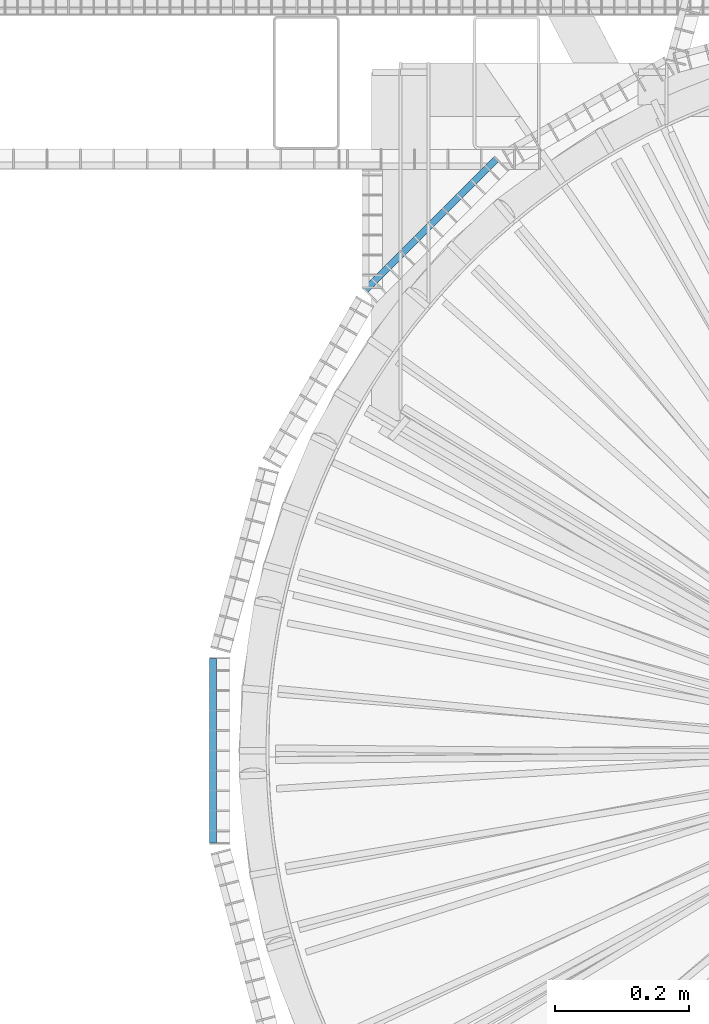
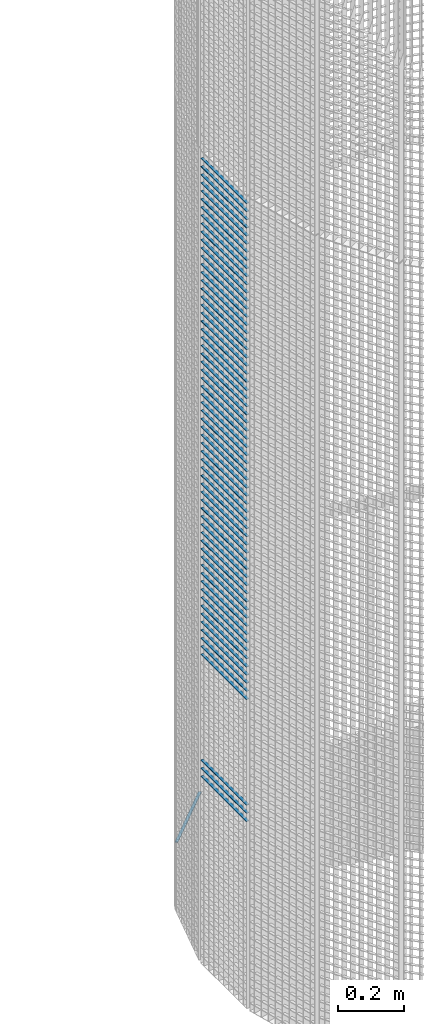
# One storey, part 213 of 1148: 66 beams, 2 elements without a shape of their own.
"""IFC2X3 building model written with IfcOpenShell, lengths in millimetres."""

from ifc_helpers import new_model, si_unit, frame, origin_with_axes, origin_2d_with_axis, place, context, subcontext, project, spatial, rectangle, extrude, material, type_object, element, aggregate, save


model = new_model("IFC2X3")

# Units and contexts
model_context = context("Model", 3, precision=1e-05, world=origin_with_axes())
body_context = subcontext(model_context, "Body", "Model", "MODEL_VIEW")
ifc_project = project(units=[si_unit("LENGTHUNIT", "METRE", prefix="MILLI"), si_unit("AREAUNIT", "SQUARE_METRE"), si_unit("VOLUMEUNIT", "CUBIC_METRE"), si_unit("MASSUNIT", "GRAM", prefix="KILO"), si_unit("TIMEUNIT", "SECOND"), si_unit("PLANEANGLEUNIT", "RADIAN"), si_unit("SOLIDANGLEUNIT", "STERADIAN"), si_unit("THERMODYNAMICTEMPERATUREUNIT", "DEGREE_CELSIUS"), si_unit("LUMINOUSINTENSITYUNIT", "LUMEN")], contexts=[model_context])

# Site, building, storey
site_placement = place(None, origin_with_axes())
site = spatial("IfcSite", under=ifc_project, at=site_placement, Name="Undefined", CompositionType="ELEMENT")
building_placement = place(site_placement, origin_with_axes())
building = spatial("IfcBuilding", under=site, at=building_placement, Name="Undefined", CompositionType="ELEMENT")
storey_placement = place(building_placement, origin_with_axes())
storey = spatial("IfcBuildingStorey", under=building, at=storey_placement, Name="Undefined", CompositionType="ELEMENT", Elevation=0.0)

# Assembly, beam
assembly_1_placement = place(storey_placement, origin_with_axes())
assembly_1 = element("IfcElementAssembly", 1, at=assembly_1_placement, inside=storey, Name="BORDURE", AssemblyPlace="NOTDEFINED", PredefinedType="NOTDEFINED")
ifc_material = material(Name="STEEL/S235JR")
beam_type = type_object("IfcBeamType", Name="PL2*10", PredefinedType="NOTDEFINED")
beam_1_placement = place(assembly_1_placement, frame((-689.771348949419, 884.92716847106, 29.9999999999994), z_axis=(-0.707106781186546, 0.707106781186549, 0.0), x_axis=(-0.70710678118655, -0.707106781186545, 0.0)))
beam_1 = element("IfcBeam", 2, at=beam_1_placement, type_object=beam_type, material=ifc_material, Name="ENTRETOISE", context=body_context, shape_type="SweptSolid", body=[
    extrude(rectangle(XDim=2.0, YDim=10.0, at=origin_2d_with_axis()), frame((275.999999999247, 9.09494701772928e-13, 1.53210777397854e-14), z_axis=(-1.0, 0.0, 0.0), x_axis=(0.0, -1.0, 0.0)), (0.0, 0.0, 1.0), 276.0),
])
aggregate(assembly_1, [beam_1])

# Assembly, beams
assembly_2_placement = place(storey_placement, origin_with_axes())
assembly_2 = element("IfcElementAssembly", 3, at=assembly_2_placement, inside=storey, Name="BORDURE", AssemblyPlace="NOTDEFINED", PredefinedType="NOTDEFINED")
beam_2_placement = place(assembly_2_placement, frame((-1113.47999999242, 137.996003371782, 2970.0), z_axis=(-1.0, 0.0, 0.0), x_axis=(0.0, -1.0, 0.0)))
beam_2 = element("IfcBeam", 4, at=beam_2_placement, type_object=beam_type, material=ifc_material, Name="ENTRETOISE", context=body_context, shape_type="SweptSolid", body=[
    extrude(rectangle(XDim=2.0, YDim=10.0, at=origin_2d_with_axis()), frame((275.999999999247, 9.09494701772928e-13, 1.53210777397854e-14), z_axis=(-1.0, 0.0, 0.0), x_axis=(0.0, -1.0, 0.0)), (0.0, 0.0, 1.0), 276.0),
])
beam_3_placement = place(assembly_2_placement, frame((-1113.47999999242, 137.996003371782, 2940.0), z_axis=(-1.0, 0.0, 0.0), x_axis=(0.0, -1.0, 0.0)))
beam_3 = element("IfcBeam", 5, at=beam_3_placement, type_object=beam_type, material=ifc_material, Name="ENTRETOISE", context=body_context, shape_type="SweptSolid", body=[
    extrude(rectangle(XDim=2.0, YDim=10.0, at=origin_2d_with_axis()), frame((275.999999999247, 9.09494701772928e-13, 1.53210777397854e-14), z_axis=(-1.0, 0.0, 0.0), x_axis=(0.0, -1.0, 0.0)), (0.0, 0.0, 1.0), 276.0),
])
beam_4_placement = place(assembly_2_placement, frame((-1113.47999999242, 137.996003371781, 2910.0), z_axis=(-1.0, 0.0, 0.0), x_axis=(0.0, -1.0, 0.0)))
beam_4 = element("IfcBeam", 6, at=beam_4_placement, type_object=beam_type, material=ifc_material, Name="ENTRETOISE", context=body_context, shape_type="SweptSolid", body=[
    extrude(rectangle(XDim=2.0, YDim=10.0, at=origin_2d_with_axis()), frame((275.999999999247, 9.09494701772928e-13, 1.53210777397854e-14), z_axis=(-1.0, 0.0, 0.0), x_axis=(0.0, -1.0, 0.0)), (0.0, 0.0, 1.0), 276.0),
])
beam_5_placement = place(assembly_2_placement, frame((-1113.47999999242, 137.996003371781, 2880.0), z_axis=(-1.0, 0.0, 0.0), x_axis=(0.0, -1.0, 0.0)))
beam_5 = element("IfcBeam", 7, at=beam_5_placement, type_object=beam_type, material=ifc_material, Name="ENTRETOISE", context=body_context, shape_type="SweptSolid", body=[
    extrude(rectangle(XDim=2.0, YDim=10.0, at=origin_2d_with_axis()), frame((275.999999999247, 9.09494701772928e-13, 1.53210777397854e-14), z_axis=(-1.0, 0.0, 0.0), x_axis=(0.0, -1.0, 0.0)), (0.0, 0.0, 1.0), 276.0),
])
beam_6_placement = place(assembly_2_placement, frame((-1113.47999999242, 137.996003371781, 2850.0), z_axis=(-1.0, 0.0, 0.0), x_axis=(0.0, -1.0, 0.0)))
beam_6 = element("IfcBeam", 8, at=beam_6_placement, type_object=beam_type, material=ifc_material, Name="ENTRETOISE", context=body_context, shape_type="SweptSolid", body=[
    extrude(rectangle(XDim=2.0, YDim=10.0, at=origin_2d_with_axis()), frame((275.999999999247, 9.09494701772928e-13, 1.53210777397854e-14), z_axis=(-1.0, 0.0, 0.0), x_axis=(0.0, -1.0, 0.0)), (0.0, 0.0, 1.0), 276.0),
])
beam_7_placement = place(assembly_2_placement, frame((-1113.47999999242, 137.996003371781, 2820.0), z_axis=(-1.0, 0.0, 0.0), x_axis=(0.0, -1.0, 0.0)))
beam_7 = element("IfcBeam", 9, at=beam_7_placement, type_object=beam_type, material=ifc_material, Name="ENTRETOISE", context=body_context, shape_type="SweptSolid", body=[
    extrude(rectangle(XDim=2.0, YDim=10.0, at=origin_2d_with_axis()), frame((275.999999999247, 9.09494701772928e-13, 1.53210777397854e-14), z_axis=(-1.0, 0.0, 0.0), x_axis=(0.0, -1.0, 0.0)), (0.0, 0.0, 1.0), 276.0),
])
beam_8_placement = place(assembly_2_placement, frame((-1113.47999999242, 137.996003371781, 2790.0), z_axis=(-1.0, 0.0, 0.0), x_axis=(0.0, -1.0, 0.0)))
beam_8 = element("IfcBeam", 10, at=beam_8_placement, type_object=beam_type, material=ifc_material, Name="ENTRETOISE", context=body_context, shape_type="SweptSolid", body=[
    extrude(rectangle(XDim=2.0, YDim=10.0, at=origin_2d_with_axis()), frame((275.999999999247, 9.09494701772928e-13, 1.53210777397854e-14), z_axis=(-1.0, 0.0, 0.0), x_axis=(0.0, -1.0, 0.0)), (0.0, 0.0, 1.0), 276.0),
])
beam_9_placement = place(assembly_2_placement, frame((-1113.47999999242, 137.996003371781, 2760.0), z_axis=(-1.0, 0.0, 0.0), x_axis=(0.0, -1.0, 0.0)))
beam_9 = element("IfcBeam", 11, at=beam_9_placement, type_object=beam_type, material=ifc_material, Name="ENTRETOISE", context=body_context, shape_type="SweptSolid", body=[
    extrude(rectangle(XDim=2.0, YDim=10.0, at=origin_2d_with_axis()), frame((275.999999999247, 9.09494701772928e-13, 1.53210777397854e-14), z_axis=(-1.0, 0.0, 0.0), x_axis=(0.0, -1.0, 0.0)), (0.0, 0.0, 1.0), 276.0),
])
beam_10_placement = place(assembly_2_placement, frame((-1113.47999999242, 137.996003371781, 2730.0), z_axis=(-1.0, 0.0, 0.0), x_axis=(0.0, -1.0, 0.0)))
beam_10 = element("IfcBeam", 12, at=beam_10_placement, type_object=beam_type, material=ifc_material, Name="ENTRETOISE", context=body_context, shape_type="SweptSolid", body=[
    extrude(rectangle(XDim=2.0, YDim=10.0, at=origin_2d_with_axis()), frame((275.999999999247, 9.09494701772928e-13, 1.53210777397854e-14), z_axis=(-1.0, 0.0, 0.0), x_axis=(0.0, -1.0, 0.0)), (0.0, 0.0, 1.0), 276.0),
])
beam_11_placement = place(assembly_2_placement, frame((-1113.47999999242, 137.996003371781, 2700.0), z_axis=(-1.0, 0.0, 0.0), x_axis=(0.0, -1.0, 0.0)))
beam_11 = element("IfcBeam", 13, at=beam_11_placement, type_object=beam_type, material=ifc_material, Name="ENTRETOISE", context=body_context, shape_type="SweptSolid", body=[
    extrude(rectangle(XDim=2.0, YDim=10.0, at=origin_2d_with_axis()), frame((275.999999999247, 9.09494701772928e-13, 1.53210777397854e-14), z_axis=(-1.0, 0.0, 0.0), x_axis=(0.0, -1.0, 0.0)), (0.0, 0.0, 1.0), 276.0),
])
beam_12_placement = place(assembly_2_placement, frame((-1113.47999999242, 137.996003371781, 2670.0), z_axis=(-1.0, 0.0, 0.0), x_axis=(0.0, -1.0, 0.0)))
beam_12 = element("IfcBeam", 14, at=beam_12_placement, type_object=beam_type, material=ifc_material, Name="ENTRETOISE", context=body_context, shape_type="SweptSolid", body=[
    extrude(rectangle(XDim=2.0, YDim=10.0, at=origin_2d_with_axis()), frame((275.999999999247, 9.09494701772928e-13, 1.53210777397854e-14), z_axis=(-1.0, 0.0, 0.0), x_axis=(0.0, -1.0, 0.0)), (0.0, 0.0, 1.0), 276.0),
])
beam_13_placement = place(assembly_2_placement, frame((-1113.47999999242, 137.99600337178, 2640.0), z_axis=(-1.0, 0.0, 0.0), x_axis=(0.0, -1.0, 0.0)))
beam_13 = element("IfcBeam", 15, at=beam_13_placement, type_object=beam_type, material=ifc_material, Name="ENTRETOISE", context=body_context, shape_type="SweptSolid", body=[
    extrude(rectangle(XDim=2.0, YDim=10.0, at=origin_2d_with_axis()), frame((275.999999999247, 9.09494701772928e-13, 1.53210777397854e-14), z_axis=(-1.0, 0.0, 0.0), x_axis=(0.0, -1.0, 0.0)), (0.0, 0.0, 1.0), 276.0),
])
beam_14_placement = place(assembly_2_placement, frame((-1113.47999999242, 137.99600337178, 2610.0), z_axis=(-1.0, 0.0, 0.0), x_axis=(0.0, -1.0, 0.0)))
beam_14 = element("IfcBeam", 16, at=beam_14_placement, type_object=beam_type, material=ifc_material, Name="ENTRETOISE", context=body_context, shape_type="SweptSolid", body=[
    extrude(rectangle(XDim=2.0, YDim=10.0, at=origin_2d_with_axis()), frame((275.999999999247, 9.09494701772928e-13, 1.53210777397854e-14), z_axis=(-1.0, 0.0, 0.0), x_axis=(0.0, -1.0, 0.0)), (0.0, 0.0, 1.0), 276.0),
])
beam_15_placement = place(assembly_2_placement, frame((-1113.47999999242, 137.99600337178, 2580.0), z_axis=(-1.0, 0.0, 0.0), x_axis=(0.0, -1.0, 0.0)))
beam_15 = element("IfcBeam", 17, at=beam_15_placement, type_object=beam_type, material=ifc_material, Name="ENTRETOISE", context=body_context, shape_type="SweptSolid", body=[
    extrude(rectangle(XDim=2.0, YDim=10.0, at=origin_2d_with_axis()), frame((275.999999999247, 9.09494701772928e-13, 1.53210777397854e-14), z_axis=(-1.0, 0.0, 0.0), x_axis=(0.0, -1.0, 0.0)), (0.0, 0.0, 1.0), 276.0),
])
beam_16_placement = place(assembly_2_placement, frame((-1113.47999999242, 137.99600337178, 2550.0), z_axis=(-1.0, 0.0, 0.0), x_axis=(0.0, -1.0, 0.0)))
beam_16 = element("IfcBeam", 18, at=beam_16_placement, type_object=beam_type, material=ifc_material, Name="ENTRETOISE", context=body_context, shape_type="SweptSolid", body=[
    extrude(rectangle(XDim=2.0, YDim=10.0, at=origin_2d_with_axis()), frame((275.999999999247, 9.09494701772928e-13, 1.53210777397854e-14), z_axis=(-1.0, 0.0, 0.0), x_axis=(0.0, -1.0, 0.0)), (0.0, 0.0, 1.0), 276.0),
])
beam_17_placement = place(assembly_2_placement, frame((-1113.47999999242, 137.99600337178, 2520.0), z_axis=(-1.0, 0.0, 0.0), x_axis=(0.0, -1.0, 0.0)))
beam_17 = element("IfcBeam", 19, at=beam_17_placement, type_object=beam_type, material=ifc_material, Name="ENTRETOISE", context=body_context, shape_type="SweptSolid", body=[
    extrude(rectangle(XDim=2.0, YDim=10.0, at=origin_2d_with_axis()), frame((275.999999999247, 9.09494701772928e-13, 1.53210777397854e-14), z_axis=(-1.0, 0.0, 0.0), x_axis=(0.0, -1.0, 0.0)), (0.0, 0.0, 1.0), 276.0),
])
beam_18_placement = place(assembly_2_placement, frame((-1113.47999999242, 137.99600337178, 2490.0), z_axis=(-1.0, 0.0, 0.0), x_axis=(0.0, -1.0, 0.0)))
beam_18 = element("IfcBeam", 20, at=beam_18_placement, type_object=beam_type, material=ifc_material, Name="ENTRETOISE", context=body_context, shape_type="SweptSolid", body=[
    extrude(rectangle(XDim=2.0, YDim=10.0, at=origin_2d_with_axis()), frame((275.999999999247, 9.09494701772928e-13, 1.53210777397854e-14), z_axis=(-1.0, 0.0, 0.0), x_axis=(0.0, -1.0, 0.0)), (0.0, 0.0, 1.0), 276.0),
])
beam_19_placement = place(assembly_2_placement, frame((-1113.47999999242, 137.99600337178, 2460.0), z_axis=(-1.0, 0.0, 0.0), x_axis=(0.0, -1.0, 0.0)))
beam_19 = element("IfcBeam", 21, at=beam_19_placement, type_object=beam_type, material=ifc_material, Name="ENTRETOISE", context=body_context, shape_type="SweptSolid", body=[
    extrude(rectangle(XDim=2.0, YDim=10.0, at=origin_2d_with_axis()), frame((275.999999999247, 9.09494701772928e-13, 1.53210777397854e-14), z_axis=(-1.0, 0.0, 0.0), x_axis=(0.0, -1.0, 0.0)), (0.0, 0.0, 1.0), 276.0),
])
beam_20_placement = place(assembly_2_placement, frame((-1113.47999999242, 137.99600337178, 2430.0), z_axis=(-1.0, 0.0, 0.0), x_axis=(0.0, -1.0, 0.0)))
beam_20 = element("IfcBeam", 22, at=beam_20_placement, type_object=beam_type, material=ifc_material, Name="ENTRETOISE", context=body_context, shape_type="SweptSolid", body=[
    extrude(rectangle(XDim=2.0, YDim=10.0, at=origin_2d_with_axis()), frame((275.999999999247, 9.09494701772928e-13, 1.53210777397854e-14), z_axis=(-1.0, 0.0, 0.0), x_axis=(0.0, -1.0, 0.0)), (0.0, 0.0, 1.0), 276.0),
])
beam_21_placement = place(assembly_2_placement, frame((-1113.47999999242, 137.99600337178, 2400.0), z_axis=(-1.0, 0.0, 0.0), x_axis=(0.0, -1.0, 0.0)))
beam_21 = element("IfcBeam", 23, at=beam_21_placement, type_object=beam_type, material=ifc_material, Name="ENTRETOISE", context=body_context, shape_type="SweptSolid", body=[
    extrude(rectangle(XDim=2.0, YDim=10.0, at=origin_2d_with_axis()), frame((275.999999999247, 9.09494701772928e-13, 1.53210777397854e-14), z_axis=(-1.0, 0.0, 0.0), x_axis=(0.0, -1.0, 0.0)), (0.0, 0.0, 1.0), 276.0),
])
beam_22_placement = place(assembly_2_placement, frame((-1113.47999999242, 137.996003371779, 2370.0), z_axis=(-1.0, 0.0, 0.0), x_axis=(0.0, -1.0, 0.0)))
beam_22 = element("IfcBeam", 24, at=beam_22_placement, type_object=beam_type, material=ifc_material, Name="ENTRETOISE", context=body_context, shape_type="SweptSolid", body=[
    extrude(rectangle(XDim=2.0, YDim=10.0, at=origin_2d_with_axis()), frame((275.999999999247, 9.09494701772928e-13, 1.53210777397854e-14), z_axis=(-1.0, 0.0, 0.0), x_axis=(0.0, -1.0, 0.0)), (0.0, 0.0, 1.0), 276.0),
])
beam_23_placement = place(assembly_2_placement, frame((-1113.47999999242, 137.996003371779, 2340.0), z_axis=(-1.0, 0.0, 0.0), x_axis=(0.0, -1.0, 0.0)))
beam_23 = element("IfcBeam", 25, at=beam_23_placement, type_object=beam_type, material=ifc_material, Name="ENTRETOISE", context=body_context, shape_type="SweptSolid", body=[
    extrude(rectangle(XDim=2.0, YDim=10.0, at=origin_2d_with_axis()), frame((275.999999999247, 9.09494701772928e-13, 1.53210777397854e-14), z_axis=(-1.0, 0.0, 0.0), x_axis=(0.0, -1.0, 0.0)), (0.0, 0.0, 1.0), 276.0),
])
beam_24_placement = place(assembly_2_placement, frame((-1113.47999999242, 137.996003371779, 2310.0), z_axis=(-1.0, 0.0, 0.0), x_axis=(0.0, -1.0, 0.0)))
beam_24 = element("IfcBeam", 26, at=beam_24_placement, type_object=beam_type, material=ifc_material, Name="ENTRETOISE", context=body_context, shape_type="SweptSolid", body=[
    extrude(rectangle(XDim=2.0, YDim=10.0, at=origin_2d_with_axis()), frame((275.999999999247, 9.09494701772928e-13, 1.53210777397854e-14), z_axis=(-1.0, 0.0, 0.0), x_axis=(0.0, -1.0, 0.0)), (0.0, 0.0, 1.0), 276.0),
])
beam_25_placement = place(assembly_2_placement, frame((-1113.47999999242, 137.996003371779, 2280.0), z_axis=(-1.0, 0.0, 0.0), x_axis=(0.0, -1.0, 0.0)))
beam_25 = element("IfcBeam", 27, at=beam_25_placement, type_object=beam_type, material=ifc_material, Name="ENTRETOISE", context=body_context, shape_type="SweptSolid", body=[
    extrude(rectangle(XDim=2.0, YDim=10.0, at=origin_2d_with_axis()), frame((275.999999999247, 9.09494701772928e-13, 1.53210777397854e-14), z_axis=(-1.0, 0.0, 0.0), x_axis=(0.0, -1.0, 0.0)), (0.0, 0.0, 1.0), 276.0),
])
beam_26_placement = place(assembly_2_placement, frame((-1113.47999999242, 137.996003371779, 2250.0), z_axis=(-1.0, 0.0, 0.0), x_axis=(0.0, -1.0, 0.0)))
beam_26 = element("IfcBeam", 28, at=beam_26_placement, type_object=beam_type, material=ifc_material, Name="ENTRETOISE", context=body_context, shape_type="SweptSolid", body=[
    extrude(rectangle(XDim=2.0, YDim=10.0, at=origin_2d_with_axis()), frame((275.999999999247, 9.09494701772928e-13, 1.53210777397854e-14), z_axis=(-1.0, 0.0, 0.0), x_axis=(0.0, -1.0, 0.0)), (0.0, 0.0, 1.0), 276.0),
])
beam_27_placement = place(assembly_2_placement, frame((-1113.47999999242, 137.996003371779, 2220.0), z_axis=(-1.0, 0.0, 0.0), x_axis=(0.0, -1.0, 0.0)))
beam_27 = element("IfcBeam", 29, at=beam_27_placement, type_object=beam_type, material=ifc_material, Name="ENTRETOISE", context=body_context, shape_type="SweptSolid", body=[
    extrude(rectangle(XDim=2.0, YDim=10.0, at=origin_2d_with_axis()), frame((275.999999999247, 9.09494701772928e-13, 1.53210777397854e-14), z_axis=(-1.0, 0.0, 0.0), x_axis=(0.0, -1.0, 0.0)), (0.0, 0.0, 1.0), 276.0),
])
beam_28_placement = place(assembly_2_placement, frame((-1113.47999999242, 137.996003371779, 2190.0), z_axis=(-1.0, 0.0, 0.0), x_axis=(0.0, -1.0, 0.0)))
beam_28 = element("IfcBeam", 30, at=beam_28_placement, type_object=beam_type, material=ifc_material, Name="ENTRETOISE", context=body_context, shape_type="SweptSolid", body=[
    extrude(rectangle(XDim=2.0, YDim=10.0, at=origin_2d_with_axis()), frame((275.999999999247, 9.09494701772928e-13, 1.53210777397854e-14), z_axis=(-1.0, 0.0, 0.0), x_axis=(0.0, -1.0, 0.0)), (0.0, 0.0, 1.0), 276.0),
])
beam_29_placement = place(assembly_2_placement, frame((-1113.47999999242, 137.996003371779, 2160.0), z_axis=(-1.0, 0.0, 0.0), x_axis=(0.0, -1.0, 0.0)))
beam_29 = element("IfcBeam", 31, at=beam_29_placement, type_object=beam_type, material=ifc_material, Name="ENTRETOISE", context=body_context, shape_type="SweptSolid", body=[
    extrude(rectangle(XDim=2.0, YDim=10.0, at=origin_2d_with_axis()), frame((275.999999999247, 9.09494701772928e-13, 1.53210777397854e-14), z_axis=(-1.0, 0.0, 0.0), x_axis=(0.0, -1.0, 0.0)), (0.0, 0.0, 1.0), 276.0),
])
beam_30_placement = place(assembly_2_placement, frame((-1113.47999999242, 137.996003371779, 2130.0), z_axis=(-1.0, 0.0, 0.0), x_axis=(0.0, -1.0, 0.0)))
beam_30 = element("IfcBeam", 32, at=beam_30_placement, type_object=beam_type, material=ifc_material, Name="ENTRETOISE", context=body_context, shape_type="SweptSolid", body=[
    extrude(rectangle(XDim=2.0, YDim=10.0, at=origin_2d_with_axis()), frame((275.999999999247, 9.09494701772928e-13, 1.53210777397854e-14), z_axis=(-1.0, 0.0, 0.0), x_axis=(0.0, -1.0, 0.0)), (0.0, 0.0, 1.0), 276.0),
])
beam_31_placement = place(assembly_2_placement, frame((-1113.47999999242, 137.996003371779, 2100.0), z_axis=(-1.0, 0.0, 0.0), x_axis=(0.0, -1.0, 0.0)))
beam_31 = element("IfcBeam", 33, at=beam_31_placement, type_object=beam_type, material=ifc_material, Name="ENTRETOISE", context=body_context, shape_type="SweptSolid", body=[
    extrude(rectangle(XDim=2.0, YDim=10.0, at=origin_2d_with_axis()), frame((275.999999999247, 9.09494701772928e-13, 1.53210777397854e-14), z_axis=(-1.0, 0.0, 0.0), x_axis=(0.0, -1.0, 0.0)), (0.0, 0.0, 1.0), 276.0),
])
beam_32_placement = place(assembly_2_placement, frame((-1113.47999999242, 137.996003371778, 2070.0), z_axis=(-1.0, 0.0, 0.0), x_axis=(0.0, -1.0, 0.0)))
beam_32 = element("IfcBeam", 34, at=beam_32_placement, type_object=beam_type, material=ifc_material, Name="ENTRETOISE", context=body_context, shape_type="SweptSolid", body=[
    extrude(rectangle(XDim=2.0, YDim=10.0, at=origin_2d_with_axis()), frame((275.999999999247, 9.09494701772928e-13, 1.53210777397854e-14), z_axis=(-1.0, 0.0, 0.0), x_axis=(0.0, -1.0, 0.0)), (0.0, 0.0, 1.0), 276.0),
])
beam_33_placement = place(assembly_2_placement, frame((-1113.47999999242, 137.996003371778, 2040.0), z_axis=(-1.0, 0.0, 0.0), x_axis=(0.0, -1.0, 0.0)))
beam_33 = element("IfcBeam", 35, at=beam_33_placement, type_object=beam_type, material=ifc_material, Name="ENTRETOISE", context=body_context, shape_type="SweptSolid", body=[
    extrude(rectangle(XDim=2.0, YDim=10.0, at=origin_2d_with_axis()), frame((275.999999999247, 9.09494701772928e-13, 1.53210777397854e-14), z_axis=(-1.0, 0.0, 0.0), x_axis=(0.0, -1.0, 0.0)), (0.0, 0.0, 1.0), 276.0),
])
beam_34_placement = place(assembly_2_placement, frame((-1113.47999999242, 137.996003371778, 2010.0), z_axis=(-1.0, 0.0, 0.0), x_axis=(0.0, -1.0, 0.0)))
beam_34 = element("IfcBeam", 36, at=beam_34_placement, type_object=beam_type, material=ifc_material, Name="ENTRETOISE", context=body_context, shape_type="SweptSolid", body=[
    extrude(rectangle(XDim=2.0, YDim=10.0, at=origin_2d_with_axis()), frame((275.999999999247, 9.09494701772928e-13, 1.53210777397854e-14), z_axis=(-1.0, 0.0, 0.0), x_axis=(0.0, -1.0, 0.0)), (0.0, 0.0, 1.0), 276.0),
])
beam_35_placement = place(assembly_2_placement, frame((-1113.47999999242, 137.996003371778, 1980.0), z_axis=(-1.0, 0.0, 0.0), x_axis=(0.0, -1.0, 0.0)))
beam_35 = element("IfcBeam", 37, at=beam_35_placement, type_object=beam_type, material=ifc_material, Name="ENTRETOISE", context=body_context, shape_type="SweptSolid", body=[
    extrude(rectangle(XDim=2.0, YDim=10.0, at=origin_2d_with_axis()), frame((275.999999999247, 9.09494701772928e-13, 1.53210777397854e-14), z_axis=(-1.0, 0.0, 0.0), x_axis=(0.0, -1.0, 0.0)), (0.0, 0.0, 1.0), 276.0),
])
beam_36_placement = place(assembly_2_placement, frame((-1113.47999999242, 137.996003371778, 1950.0), z_axis=(-1.0, 0.0, 0.0), x_axis=(0.0, -1.0, 0.0)))
beam_36 = element("IfcBeam", 38, at=beam_36_placement, type_object=beam_type, material=ifc_material, Name="ENTRETOISE", context=body_context, shape_type="SweptSolid", body=[
    extrude(rectangle(XDim=2.0, YDim=10.0, at=origin_2d_with_axis()), frame((275.999999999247, 9.09494701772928e-13, 1.53210777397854e-14), z_axis=(-1.0, 0.0, 0.0), x_axis=(0.0, -1.0, 0.0)), (0.0, 0.0, 1.0), 276.0),
])
beam_37_placement = place(assembly_2_placement, frame((-1113.47999999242, 137.996003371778, 1920.0), z_axis=(-1.0, 0.0, 0.0), x_axis=(0.0, -1.0, 0.0)))
beam_37 = element("IfcBeam", 39, at=beam_37_placement, type_object=beam_type, material=ifc_material, Name="ENTRETOISE", context=body_context, shape_type="SweptSolid", body=[
    extrude(rectangle(XDim=2.0, YDim=10.0, at=origin_2d_with_axis()), frame((275.999999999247, 9.09494701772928e-13, 1.53210777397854e-14), z_axis=(-1.0, 0.0, 0.0), x_axis=(0.0, -1.0, 0.0)), (0.0, 0.0, 1.0), 276.0),
])
beam_38_placement = place(assembly_2_placement, frame((-1113.47999999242, 137.996003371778, 1890.0), z_axis=(-1.0, 0.0, 0.0), x_axis=(0.0, -1.0, 0.0)))
beam_38 = element("IfcBeam", 40, at=beam_38_placement, type_object=beam_type, material=ifc_material, Name="ENTRETOISE", context=body_context, shape_type="SweptSolid", body=[
    extrude(rectangle(XDim=2.0, YDim=10.0, at=origin_2d_with_axis()), frame((275.999999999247, 9.09494701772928e-13, 1.53210777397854e-14), z_axis=(-1.0, 0.0, 0.0), x_axis=(0.0, -1.0, 0.0)), (0.0, 0.0, 1.0), 276.0),
])
beam_39_placement = place(assembly_2_placement, frame((-1113.47999999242, 137.996003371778, 1860.0), z_axis=(-1.0, 0.0, 0.0), x_axis=(0.0, -1.0, 0.0)))
beam_39 = element("IfcBeam", 41, at=beam_39_placement, type_object=beam_type, material=ifc_material, Name="ENTRETOISE", context=body_context, shape_type="SweptSolid", body=[
    extrude(rectangle(XDim=2.0, YDim=10.0, at=origin_2d_with_axis()), frame((275.999999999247, 9.09494701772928e-13, 1.53210777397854e-14), z_axis=(-1.0, 0.0, 0.0), x_axis=(0.0, -1.0, 0.0)), (0.0, 0.0, 1.0), 276.0),
])
beam_40_placement = place(assembly_2_placement, frame((-1113.47999999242, 137.996003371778, 1830.0), z_axis=(-1.0, 0.0, 0.0), x_axis=(0.0, -1.0, 0.0)))
beam_40 = element("IfcBeam", 42, at=beam_40_placement, type_object=beam_type, material=ifc_material, Name="ENTRETOISE", context=body_context, shape_type="SweptSolid", body=[
    extrude(rectangle(XDim=2.0, YDim=10.0, at=origin_2d_with_axis()), frame((275.999999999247, 9.09494701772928e-13, 1.53210777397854e-14), z_axis=(-1.0, 0.0, 0.0), x_axis=(0.0, -1.0, 0.0)), (0.0, 0.0, 1.0), 276.0),
])
beam_41_placement = place(assembly_2_placement, frame((-1113.47999999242, 137.996003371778, 1800.0), z_axis=(-1.0, 0.0, 0.0), x_axis=(0.0, -1.0, 0.0)))
beam_41 = element("IfcBeam", 43, at=beam_41_placement, type_object=beam_type, material=ifc_material, Name="ENTRETOISE", context=body_context, shape_type="SweptSolid", body=[
    extrude(rectangle(XDim=2.0, YDim=10.0, at=origin_2d_with_axis()), frame((275.999999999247, 9.09494701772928e-13, 1.53210777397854e-14), z_axis=(-1.0, 0.0, 0.0), x_axis=(0.0, -1.0, 0.0)), (0.0, 0.0, 1.0), 276.0),
])
beam_42_placement = place(assembly_2_placement, frame((-1113.47999999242, 137.996003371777, 1770.0), z_axis=(-1.0, 0.0, 0.0), x_axis=(0.0, -1.0, 0.0)))
beam_42 = element("IfcBeam", 44, at=beam_42_placement, type_object=beam_type, material=ifc_material, Name="ENTRETOISE", context=body_context, shape_type="SweptSolid", body=[
    extrude(rectangle(XDim=2.0, YDim=10.0, at=origin_2d_with_axis()), frame((275.999999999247, 9.09494701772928e-13, 1.53210777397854e-14), z_axis=(-1.0, 0.0, 0.0), x_axis=(0.0, -1.0, 0.0)), (0.0, 0.0, 1.0), 276.0),
])
beam_43_placement = place(assembly_2_placement, frame((-1113.47999999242, 137.996003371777, 1740.0), z_axis=(-1.0, 0.0, 0.0), x_axis=(0.0, -1.0, 0.0)))
beam_43 = element("IfcBeam", 45, at=beam_43_placement, type_object=beam_type, material=ifc_material, Name="ENTRETOISE", context=body_context, shape_type="SweptSolid", body=[
    extrude(rectangle(XDim=2.0, YDim=10.0, at=origin_2d_with_axis()), frame((275.999999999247, 9.09494701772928e-13, 1.53210777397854e-14), z_axis=(-1.0, 0.0, 0.0), x_axis=(0.0, -1.0, 0.0)), (0.0, 0.0, 1.0), 276.0),
])
beam_44_placement = place(assembly_2_placement, frame((-1113.47999999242, 137.996003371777, 1710.0), z_axis=(-1.0, 0.0, 0.0), x_axis=(0.0, -1.0, 0.0)))
beam_44 = element("IfcBeam", 46, at=beam_44_placement, type_object=beam_type, material=ifc_material, Name="ENTRETOISE", context=body_context, shape_type="SweptSolid", body=[
    extrude(rectangle(XDim=2.0, YDim=10.0, at=origin_2d_with_axis()), frame((275.999999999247, 9.09494701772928e-13, 1.53210777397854e-14), z_axis=(-1.0, 0.0, 0.0), x_axis=(0.0, -1.0, 0.0)), (0.0, 0.0, 1.0), 276.0),
])
beam_45_placement = place(assembly_2_placement, frame((-1113.47999999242, 137.996003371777, 1680.0), z_axis=(-1.0, 0.0, 0.0), x_axis=(0.0, -1.0, 0.0)))
beam_45 = element("IfcBeam", 47, at=beam_45_placement, type_object=beam_type, material=ifc_material, Name="ENTRETOISE", context=body_context, shape_type="SweptSolid", body=[
    extrude(rectangle(XDim=2.0, YDim=10.0, at=origin_2d_with_axis()), frame((275.999999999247, 9.09494701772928e-13, 1.53210777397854e-14), z_axis=(-1.0, 0.0, 0.0), x_axis=(0.0, -1.0, 0.0)), (0.0, 0.0, 1.0), 276.0),
])
beam_46_placement = place(assembly_2_placement, frame((-1113.47999999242, 137.996003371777, 1650.0), z_axis=(-1.0, 0.0, 0.0), x_axis=(0.0, -1.0, 0.0)))
beam_46 = element("IfcBeam", 48, at=beam_46_placement, type_object=beam_type, material=ifc_material, Name="ENTRETOISE", context=body_context, shape_type="SweptSolid", body=[
    extrude(rectangle(XDim=2.0, YDim=10.0, at=origin_2d_with_axis()), frame((275.999999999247, 9.09494701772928e-13, 1.53210777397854e-14), z_axis=(-1.0, 0.0, 0.0), x_axis=(0.0, -1.0, 0.0)), (0.0, 0.0, 1.0), 276.0),
])
beam_47_placement = place(assembly_2_placement, frame((-1113.47999999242, 137.996003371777, 1620.0), z_axis=(-1.0, 0.0, 0.0), x_axis=(0.0, -1.0, 0.0)))
beam_47 = element("IfcBeam", 49, at=beam_47_placement, type_object=beam_type, material=ifc_material, Name="ENTRETOISE", context=body_context, shape_type="SweptSolid", body=[
    extrude(rectangle(XDim=2.0, YDim=10.0, at=origin_2d_with_axis()), frame((275.999999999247, 9.09494701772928e-13, 1.53210777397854e-14), z_axis=(-1.0, 0.0, 0.0), x_axis=(0.0, -1.0, 0.0)), (0.0, 0.0, 1.0), 276.0),
])
beam_48_placement = place(assembly_2_placement, frame((-1113.47999999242, 137.996003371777, 1590.0), z_axis=(-1.0, 0.0, 0.0), x_axis=(0.0, -1.0, 0.0)))
beam_48 = element("IfcBeam", 50, at=beam_48_placement, type_object=beam_type, material=ifc_material, Name="ENTRETOISE", context=body_context, shape_type="SweptSolid", body=[
    extrude(rectangle(XDim=2.0, YDim=10.0, at=origin_2d_with_axis()), frame((275.999999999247, 9.09494701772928e-13, 1.53210777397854e-14), z_axis=(-1.0, 0.0, 0.0), x_axis=(0.0, -1.0, 0.0)), (0.0, 0.0, 1.0), 276.0),
])
beam_49_placement = place(assembly_2_placement, frame((-1113.47999999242, 137.996003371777, 1560.0), z_axis=(-1.0, 0.0, 0.0), x_axis=(0.0, -1.0, 0.0)))
beam_49 = element("IfcBeam", 51, at=beam_49_placement, type_object=beam_type, material=ifc_material, Name="ENTRETOISE", context=body_context, shape_type="SweptSolid", body=[
    extrude(rectangle(XDim=2.0, YDim=10.0, at=origin_2d_with_axis()), frame((275.999999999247, 9.09494701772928e-13, 1.53210777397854e-14), z_axis=(-1.0, 0.0, 0.0), x_axis=(0.0, -1.0, 0.0)), (0.0, 0.0, 1.0), 276.0),
])
beam_50_placement = place(assembly_2_placement, frame((-1113.47999999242, 137.996003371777, 1530.0), z_axis=(-1.0, 0.0, 0.0), x_axis=(0.0, -1.0, 0.0)))
beam_50 = element("IfcBeam", 52, at=beam_50_placement, type_object=beam_type, material=ifc_material, Name="ENTRETOISE", context=body_context, shape_type="SweptSolid", body=[
    extrude(rectangle(XDim=2.0, YDim=10.0, at=origin_2d_with_axis()), frame((275.999999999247, 9.09494701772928e-13, 1.53210777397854e-14), z_axis=(-1.0, 0.0, 0.0), x_axis=(0.0, -1.0, 0.0)), (0.0, 0.0, 1.0), 276.0),
])
beam_51_placement = place(assembly_2_placement, frame((-1113.47999999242, 137.996003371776, 1500.0), z_axis=(-1.0, 0.0, 0.0), x_axis=(0.0, -1.0, 0.0)))
beam_51 = element("IfcBeam", 53, at=beam_51_placement, type_object=beam_type, material=ifc_material, Name="ENTRETOISE", context=body_context, shape_type="SweptSolid", body=[
    extrude(rectangle(XDim=2.0, YDim=10.0, at=origin_2d_with_axis()), frame((275.999999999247, 9.09494701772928e-13, 1.53210777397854e-14), z_axis=(-1.0, 0.0, 0.0), x_axis=(0.0, -1.0, 0.0)), (0.0, 0.0, 1.0), 276.0),
])
beam_52_placement = place(assembly_2_placement, frame((-1113.47999999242, 137.996003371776, 1470.0), z_axis=(-1.0, 0.0, 0.0), x_axis=(0.0, -1.0, 0.0)))
beam_52 = element("IfcBeam", 54, at=beam_52_placement, type_object=beam_type, material=ifc_material, Name="ENTRETOISE", context=body_context, shape_type="SweptSolid", body=[
    extrude(rectangle(XDim=2.0, YDim=10.0, at=origin_2d_with_axis()), frame((275.999999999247, 9.09494701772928e-13, 1.53210777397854e-14), z_axis=(-1.0, 0.0, 0.0), x_axis=(0.0, -1.0, 0.0)), (0.0, 0.0, 1.0), 276.0),
])
beam_53_placement = place(assembly_2_placement, frame((-1113.47999999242, 137.996003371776, 1440.0), z_axis=(-1.0, 0.0, 0.0), x_axis=(0.0, -1.0, 0.0)))
beam_53 = element("IfcBeam", 55, at=beam_53_placement, type_object=beam_type, material=ifc_material, Name="ENTRETOISE", context=body_context, shape_type="SweptSolid", body=[
    extrude(rectangle(XDim=2.0, YDim=10.0, at=origin_2d_with_axis()), frame((275.999999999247, 9.09494701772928e-13, 1.53210777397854e-14), z_axis=(-1.0, 0.0, 0.0), x_axis=(0.0, -1.0, 0.0)), (0.0, 0.0, 1.0), 276.0),
])
beam_54_placement = place(assembly_2_placement, frame((-1113.47999999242, 137.996003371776, 1410.0), z_axis=(-1.0, 0.0, 0.0), x_axis=(0.0, -1.0, 0.0)))
beam_54 = element("IfcBeam", 56, at=beam_54_placement, type_object=beam_type, material=ifc_material, Name="ENTRETOISE", context=body_context, shape_type="SweptSolid", body=[
    extrude(rectangle(XDim=2.0, YDim=10.0, at=origin_2d_with_axis()), frame((275.999999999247, 9.09494701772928e-13, 1.53210777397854e-14), z_axis=(-1.0, 0.0, 0.0), x_axis=(0.0, -1.0, 0.0)), (0.0, 0.0, 1.0), 276.0),
])
beam_55_placement = place(assembly_2_placement, frame((-1113.47999999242, 137.996003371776, 1380.0), z_axis=(-1.0, 0.0, 0.0), x_axis=(0.0, -1.0, 0.0)))
beam_55 = element("IfcBeam", 57, at=beam_55_placement, type_object=beam_type, material=ifc_material, Name="ENTRETOISE", context=body_context, shape_type="SweptSolid", body=[
    extrude(rectangle(XDim=2.0, YDim=10.0, at=origin_2d_with_axis()), frame((275.999999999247, 9.09494701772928e-13, 1.53210777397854e-14), z_axis=(-1.0, 0.0, 0.0), x_axis=(0.0, -1.0, 0.0)), (0.0, 0.0, 1.0), 276.0),
])
beam_56_placement = place(assembly_2_placement, frame((-1113.47999999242, 137.996003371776, 1350.0), z_axis=(-1.0, 0.0, 0.0), x_axis=(0.0, -1.0, 0.0)))
beam_56 = element("IfcBeam", 58, at=beam_56_placement, type_object=beam_type, material=ifc_material, Name="ENTRETOISE", context=body_context, shape_type="SweptSolid", body=[
    extrude(rectangle(XDim=2.0, YDim=10.0, at=origin_2d_with_axis()), frame((275.999999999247, 9.09494701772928e-13, 1.53210777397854e-14), z_axis=(-1.0, 0.0, 0.0), x_axis=(0.0, -1.0, 0.0)), (0.0, 0.0, 1.0), 276.0),
])
beam_57_placement = place(assembly_2_placement, frame((-1113.47999999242, 137.996003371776, 1320.0), z_axis=(-1.0, 0.0, 0.0), x_axis=(0.0, -1.0, 0.0)))
beam_57 = element("IfcBeam", 59, at=beam_57_placement, type_object=beam_type, material=ifc_material, Name="ENTRETOISE", context=body_context, shape_type="SweptSolid", body=[
    extrude(rectangle(XDim=2.0, YDim=10.0, at=origin_2d_with_axis()), frame((275.999999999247, 9.09494701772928e-13, 1.53210777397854e-14), z_axis=(-1.0, 0.0, 0.0), x_axis=(0.0, -1.0, 0.0)), (0.0, 0.0, 1.0), 276.0),
])
beam_58_placement = place(assembly_2_placement, frame((-1113.47999999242, 137.996003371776, 1290.0), z_axis=(-1.0, 0.0, 0.0), x_axis=(0.0, -1.0, 0.0)))
beam_58 = element("IfcBeam", 60, at=beam_58_placement, type_object=beam_type, material=ifc_material, Name="ENTRETOISE", context=body_context, shape_type="SweptSolid", body=[
    extrude(rectangle(XDim=2.0, YDim=10.0, at=origin_2d_with_axis()), frame((275.999999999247, 9.09494701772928e-13, 1.53210777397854e-14), z_axis=(-1.0, 0.0, 0.0), x_axis=(0.0, -1.0, 0.0)), (0.0, 0.0, 1.0), 276.0),
])
beam_59_placement = place(assembly_2_placement, frame((-1113.47999999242, 137.996003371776, 1260.0), z_axis=(-1.0, 0.0, 0.0), x_axis=(0.0, -1.0, 0.0)))
beam_59 = element("IfcBeam", 61, at=beam_59_placement, type_object=beam_type, material=ifc_material, Name="ENTRETOISE", context=body_context, shape_type="SweptSolid", body=[
    extrude(rectangle(XDim=2.0, YDim=10.0, at=origin_2d_with_axis()), frame((275.999999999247, 9.09494701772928e-13, 1.53210777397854e-14), z_axis=(-1.0, 0.0, 0.0), x_axis=(0.0, -1.0, 0.0)), (0.0, 0.0, 1.0), 276.0),
])
beam_60_placement = place(assembly_2_placement, frame((-1113.47999999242, 137.996003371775, 1230.0), z_axis=(-1.0, 0.0, 0.0), x_axis=(0.0, -1.0, 0.0)))
beam_60 = element("IfcBeam", 62, at=beam_60_placement, type_object=beam_type, material=ifc_material, Name="ENTRETOISE", context=body_context, shape_type="SweptSolid", body=[
    extrude(rectangle(XDim=2.0, YDim=10.0, at=origin_2d_with_axis()), frame((275.999999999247, 9.09494701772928e-13, 1.53210777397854e-14), z_axis=(-1.0, 0.0, 0.0), x_axis=(0.0, -1.0, 0.0)), (0.0, 0.0, 1.0), 276.0),
])
beam_61_placement = place(assembly_2_placement, frame((-1113.47999999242, 137.996003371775, 1200.0), z_axis=(-1.0, 0.0, 0.0), x_axis=(0.0, -1.0, 0.0)))
beam_61 = element("IfcBeam", 63, at=beam_61_placement, type_object=beam_type, material=ifc_material, Name="ENTRETOISE", context=body_context, shape_type="SweptSolid", body=[
    extrude(rectangle(XDim=2.0, YDim=10.0, at=origin_2d_with_axis()), frame((275.999999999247, 9.09494701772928e-13, 1.53210777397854e-14), z_axis=(-1.0, 0.0, 0.0), x_axis=(0.0, -1.0, 0.0)), (0.0, 0.0, 1.0), 276.0),
])
beam_62_placement = place(assembly_2_placement, frame((-1113.47999999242, 137.996003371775, 1170.0), z_axis=(-1.0, 0.0, 0.0), x_axis=(0.0, -1.0, 0.0)))
beam_62 = element("IfcBeam", 64, at=beam_62_placement, type_object=beam_type, material=ifc_material, Name="ENTRETOISE", context=body_context, shape_type="SweptSolid", body=[
    extrude(rectangle(XDim=2.0, YDim=10.0, at=origin_2d_with_axis()), frame((275.999999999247, 9.09494701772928e-13, 1.53210777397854e-14), z_axis=(-1.0, 0.0, 0.0), x_axis=(0.0, -1.0, 0.0)), (0.0, 0.0, 1.0), 276.0),
])
beam_63_placement = place(assembly_2_placement, frame((-1113.47999999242, 137.996003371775, 1140.0), z_axis=(-1.0, 0.0, 0.0), x_axis=(0.0, -1.0, 0.0)))
beam_63 = element("IfcBeam", 65, at=beam_63_placement, type_object=beam_type, material=ifc_material, Name="ENTRETOISE", context=body_context, shape_type="SweptSolid", body=[
    extrude(rectangle(XDim=2.0, YDim=10.0, at=origin_2d_with_axis()), frame((275.999999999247, 9.09494701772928e-13, 1.53210777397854e-14), z_axis=(-1.0, 0.0, 0.0), x_axis=(0.0, -1.0, 0.0)), (0.0, 0.0, 1.0), 276.0),
])
beam_64_placement = place(assembly_2_placement, frame((-1113.47999999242, 137.996003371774, 719.999999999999), z_axis=(-1.0, 0.0, 0.0), x_axis=(0.0, -1.0, 0.0)))
beam_64 = element("IfcBeam", 66, at=beam_64_placement, type_object=beam_type, material=ifc_material, Name="ENTRETOISE", context=body_context, shape_type="SweptSolid", body=[
    extrude(rectangle(XDim=2.0, YDim=10.0, at=origin_2d_with_axis()), frame((275.999999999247, 9.09494701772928e-13, 1.53210777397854e-14), z_axis=(-1.0, 0.0, 0.0), x_axis=(0.0, -1.0, 0.0)), (0.0, 0.0, 1.0), 276.0),
])
beam_65_placement = place(assembly_2_placement, frame((-1113.47999999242, 137.996003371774, 689.999999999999), z_axis=(-1.0, 0.0, 0.0), x_axis=(0.0, -1.0, 0.0)))
beam_65 = element("IfcBeam", 67, at=beam_65_placement, type_object=beam_type, material=ifc_material, Name="ENTRETOISE", context=body_context, shape_type="SweptSolid", body=[
    extrude(rectangle(XDim=2.0, YDim=10.0, at=origin_2d_with_axis()), frame((275.999999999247, 9.09494701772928e-13, 1.53210777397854e-14), z_axis=(-1.0, 0.0, 0.0), x_axis=(0.0, -1.0, 0.0)), (0.0, 0.0, 1.0), 276.0),
])
beam_66_placement = place(assembly_2_placement, frame((-1113.47999999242, 137.996003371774, 749.999999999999), z_axis=(-1.0, 0.0, 0.0), x_axis=(0.0, -1.0, 0.0)))
beam_66 = element("IfcBeam", 68, at=beam_66_placement, type_object=beam_type, material=ifc_material, Name="ENTRETOISE", context=body_context, shape_type="SweptSolid", body=[
    extrude(rectangle(XDim=2.0, YDim=10.0, at=origin_2d_with_axis()), frame((275.999999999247, 9.09494701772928e-13, 1.53210777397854e-14), z_axis=(-1.0, 0.0, 0.0), x_axis=(0.0, -1.0, 0.0)), (0.0, 0.0, 1.0), 276.0),
])
aggregate(assembly_2, [beam_2, beam_3, beam_4, beam_5, beam_6, beam_7, beam_8, beam_9, beam_10, beam_11, beam_12, beam_13, beam_14, beam_15, beam_16, beam_17, beam_18, beam_19, beam_20, beam_21, beam_22, beam_23, beam_24, beam_25, beam_26, beam_27, beam_28, beam_29, beam_30, beam_31, beam_32, beam_33, beam_34, beam_35, beam_36, beam_37, beam_38, beam_39, beam_40, beam_41, beam_42, beam_43, beam_44, beam_45, beam_46, beam_47, beam_48, beam_49, beam_50, beam_51, beam_52, beam_53, beam_54, beam_55, beam_56, beam_57, beam_58, beam_59, beam_60, beam_61, beam_62, beam_63, beam_64, beam_65, beam_66])

save(model, "model.ifc")
